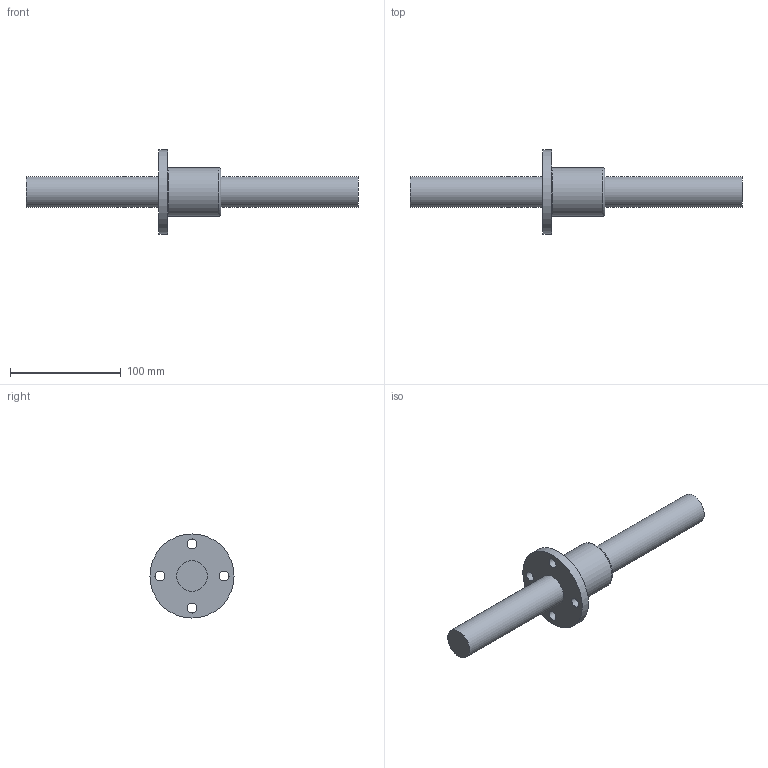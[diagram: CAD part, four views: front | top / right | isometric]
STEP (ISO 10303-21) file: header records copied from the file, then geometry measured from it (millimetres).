
FILE_DESCRIPTION((''),'2;1');
FILE_NAME('D:\製品 (図面)\カタログ用3D\ネジ関連\STEP形式\TMF\TMF28.stp','2010-06-02T15:00:03',('Tsuchiya'),(''),'Autodesk Inventor 10','Autodesk Inventor 10','');
FILE_SCHEMA(('AUTOMOTIVE_DESIGN { 1 0 10303 214 1 1 1 1 }'));
Length unit declared in the file: millimetre
Products named in the file (3): TMF28; TMF281; TMF282
Assembly tree (2 placements, depth 2):
  TMF28
    TMF281
    TMF282
Bounding box: 300 x 76 x 76 mm (x, y, z)
Volume: 257376 mm3; surface area: 49179.3 mm2
Topology: 2 solids, 2 shells, 15 faces, 32 edges, 22 vertices
Faces by surface type: cylinder 8, plane 5, torus 1, bspline 1
Full cylindrical faces by diameter (mm): 9 x4, 28 x2, 44 x1, 76 x1
Entity records: 470 total; most frequent: CARTESIAN_POINT 100, DIRECTION 74, AXIS2_PLACEMENT_3D 37, ORIENTED_EDGE 36, EDGE_LOOP 36, FACE_BOUND 21, VERTEX_POINT 18, CIRCLE 18
